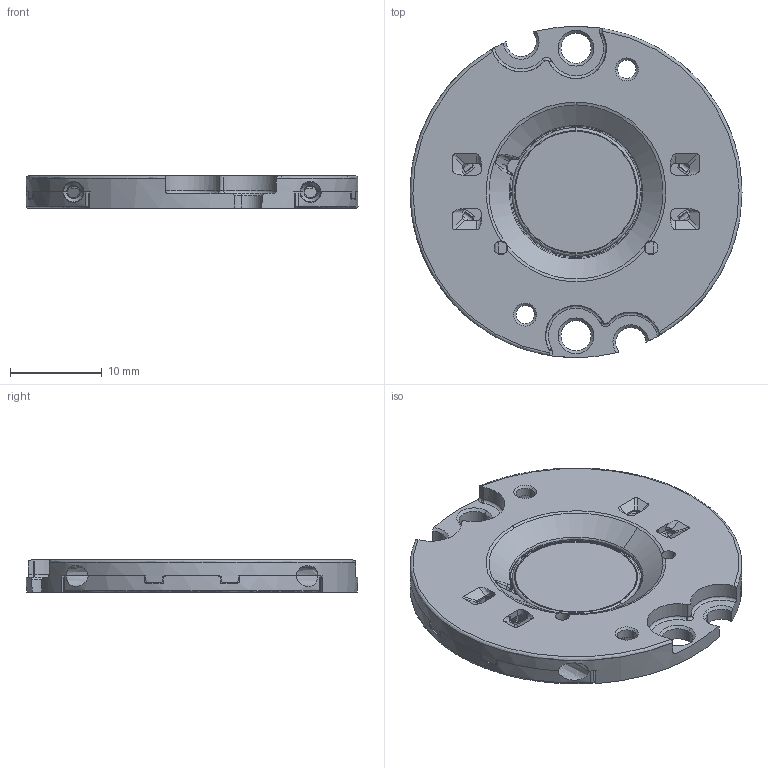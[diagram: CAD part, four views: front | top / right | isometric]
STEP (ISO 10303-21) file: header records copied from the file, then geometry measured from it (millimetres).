
FILE_DESCRIPTION (( 'STEP AP214' ), '1' );
FILE_NAME ('GEN8 Vero13 SE.STEP', '2020-09-15T02:42:24', ( '' ), ( '' ), 'SwSTEP 2.0', 'SolidWorks 2018', '' );
FILE_SCHEMA (( 'AUTOMOTIVE_DESIGN' ));
Length unit declared in the file: millimetre
Products named in the file (1): GEN8 Vero13 SE
Bounding box: 36.25 x 36.19 x 3.5 mm (x, y, z)
Volume: 2218.3 mm3; surface area: 5164 mm2
Topology: 8 solids, 8 shells, 2066 faces, 5652 edges, 3650 vertices
Faces by surface type: bspline 1076, plane 887, cylinder 97, torus 6
Entity records: 98031 total; most frequent: CARTESIAN_POINT 27915, ORIENTED_EDGE 11304, DIRECTION 8138, EDGE_CURVE 5652, VERTEX_POINT 3650, VECTOR 2956, LINE 2956, AXIS2_PLACEMENT_3D 2591
